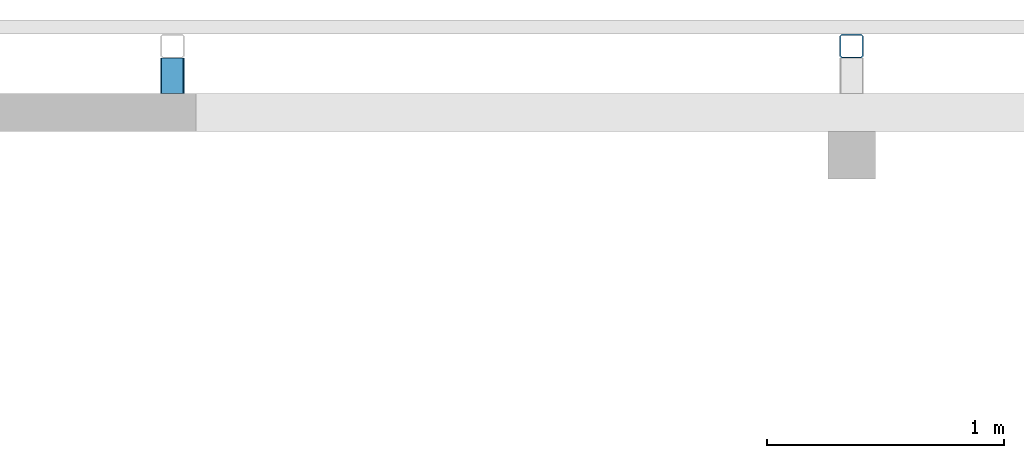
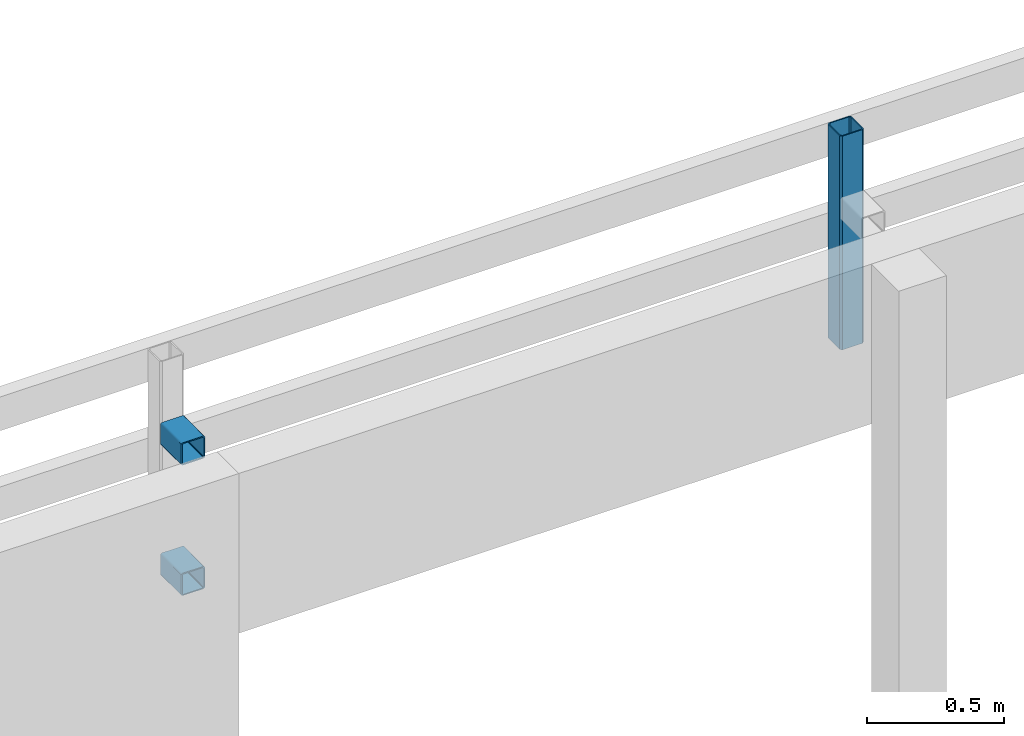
# One storey, part 18 of 42: 3 members.
"""IFC4 building model written with IfcOpenShell, lengths in metres."""

from ifc_helpers import new_model, entity, si_unit, converted_unit, derived_unit, frame, origin, place, context, subcontext, project, spatial, faceted_brep, material, element, save


model = new_model("IFC4")

# Units and contexts
model_context = context("Model", 3, precision=1e-05, world=origin())
plan_context = context("Plan", 2, precision=1e-05, world=origin())
body_context = subcontext(model_context, "Body", "Model", "MODEL_VIEW")
ifc_project = project(units=[si_unit("LENGTHUNIT", "METRE"), si_unit("AREAUNIT", "SQUARE_METRE"), si_unit("VOLUMEUNIT", "CUBIC_METRE"), si_unit("MASSUNIT", "GRAM", prefix="KILO"), converted_unit("PLANEANGLEUNIT", "DEGREE", entity("IfcPlaneAngleMeasure", 0.0174532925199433), si_unit("PLANEANGLEUNIT", "RADIAN"), dimensions=[0, 0, 0, 0, 0, 0, 0]), derived_unit("THERMALTRANSMITTANCEUNIT", [(si_unit("POWERUNIT", "WATT"), 1), (si_unit("THERMODYNAMICTEMPERATUREUNIT", "KELVIN"), -1), (si_unit("LENGTHUNIT", "METRE"), -2)]), derived_unit("VOLUMETRICFLOWRATEUNIT", [(si_unit("LENGTHUNIT", "METRE"), 3), (converted_unit("TIMEUNIT", "hour", entity("IfcTimeMeasure", 3600.0), si_unit("TIMEUNIT", "SECOND"), dimensions=[0, 0, 1, 0, 0, 0, 0]), -1), (si_unit("LENGTHUNIT", "METRE"), -1)])], contexts=[model_context, plan_context])

# Site, building, storey
site_placement = place(None, origin())
site = spatial("IfcSite", under=ifc_project, at=site_placement, Name="Site", CompositionType="ELEMENT")
building_placement = place(site_placement, origin())
building = spatial("IfcBuilding", under=site, at=building_placement, Name="Admin", CompositionType="ELEMENT")
storey_placement = place(building_placement, frame((0.0, 0.0, 6.61)))
storey = spatial("IfcBuildingStorey", under=building, at=storey_placement, Name="02-Etage2", CompositionType="ELEMENT", Elevation=6.61)

# Members
ifc_material_1 = material(Name="S235")
member_1_placement = place(storey_placement, frame((35.3398005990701, 22.4994493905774, 2.28)))
element("IfcMember", 1, at=member_1_placement, inside=storey, material=ifc_material_1, Name="Bandeau R+2", context=body_context, shape_type="Brep", body=[
    faceted_brep([(0.09, 0.005, 0.0), (0.09, 0.005, 0.95), (0.01, 0.005, 0.95), (0.01, 0.005, 0.0), (0.095, 0.01, 0.0), (0.095, 0.01, 0.95), (0.095, 0.09, 0.0), (0.095, 0.09, 0.95), (0.09, 0.095, 0.0), (0.09, 0.095, 0.95), (0.01, 0.095, 0.0), (0.01, 0.095, 0.95), (0.005, 0.09, 0.0), (0.005, 0.09, 0.95), (0.005, 0.01, 0.0), (0.005, 0.01, 0.95), (0.0, 0.0075, 0.0), (0.0, 0.0075, 0.95), (0.0075, 0.0, 0.95), (0.0075, 0.0, 0.0), (0.0, 0.0925, 0.0), (0.0, 0.0925, 0.95), (0.0075, 0.1, 0.0), (0.0075, 0.1, 0.95), (0.0925, 0.1, 0.0), (0.0925, 0.1, 0.95), (0.1, 0.0925, 0.0), (0.1, 0.0925, 0.95), (0.1, 0.0075, 0.0), (0.1, 0.0075, 0.95), (0.0925, 0.0, 0.0), (0.0925, 0.0, 0.95)], [[[0, 1, 2, 3]], [[4, 5, 1, 0]], [[6, 7, 5, 4]], [[8, 9, 7, 6]], [[10, 11, 9, 8]], [[12, 13, 11, 10]], [[14, 15, 13, 12]], [[3, 2, 15, 14]], [[16, 17, 18, 19]], [[20, 21, 17, 16]], [[22, 23, 21, 20]], [[24, 25, 23, 22]], [[26, 27, 25, 24]], [[28, 29, 27, 26]], [[30, 31, 29, 28]], [[19, 18, 31, 30]], [[18, 17, 21, 23, 25, 27, 29, 31], [2, 1, 5, 7, 9, 11, 13, 15]], [[19, 30, 28, 26, 24, 22, 20, 16], [3, 14, 12, 10, 8, 6, 4, 0]]], orient=[[False], [False], [False], [False], [False], [False], [False], [False], [False], [False], [False], [False], [False], [False], [False], [False], [False, False], [False, False]]),
])
ifc_material_2 = material(Name="S235")
member_2_placement = place(storey_placement, frame((32.4798005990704, 22.3494493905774, 2.28)))
element("IfcMember", 2, at=member_2_placement, inside=storey, material=ifc_material_2, Name="Bandeau R+2", context=body_context, shape_type="Brep", body=[
    faceted_brep([(0.00500000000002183, 0.15, 0.09), (0.00500000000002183, 0.15, 0.01), (0.005, 1.81898940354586e-14, 0.01), (0.005, 1.81898940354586e-14, 0.09), (0.00507596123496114, 0.15, 0.0908682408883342), (0.00507596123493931, 1.81898940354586e-14, 0.0908682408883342), (0.00530153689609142, 0.15, 0.0917101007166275), (0.00530153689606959, 1.81898940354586e-14, 0.0917101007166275), (0.00566987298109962, 0.15, 0.0925), (0.00566987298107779, 1.81898940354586e-14, 0.0925), (0.00616977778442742, 0.15, 0.0932139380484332), (0.0061697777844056, 1.81898940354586e-14, 0.0932139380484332), (0.00678606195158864, 0.15, 0.0938302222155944), (0.00678606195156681, 1.81898940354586e-14, 0.0938302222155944), (0.00750000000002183, 0.15, 0.0943301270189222), (0.0075, 1.81898940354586e-14, 0.0943301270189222), (0.00828989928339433, 0.15, 0.0946984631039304), (0.00828989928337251, 1.81898940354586e-14, 0.0946984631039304), (0.00913175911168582, 0.15, 0.0949240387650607), (0.009131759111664, 1.81898940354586e-14, 0.0949240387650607), (0.0100000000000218, 0.15, 0.095), (0.01, 1.81898940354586e-14, 0.095), (0.0900000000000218, 0.149999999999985, 0.095), (0.09, 3.63797880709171e-15, 0.095), (0.0908682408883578, 0.149999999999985, 0.0949240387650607), (0.090868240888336, 3.63797880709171e-15, 0.0949240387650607), (0.0917101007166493, 0.149999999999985, 0.0946984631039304), (0.0917101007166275, 3.63797880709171e-15, 0.0946984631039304), (0.0925000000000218, 0.149999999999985, 0.0943301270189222), (0.0925, 3.63797880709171e-15, 0.0943301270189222), (0.093213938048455, 0.149999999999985, 0.0938302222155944), (0.0932139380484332, 3.63797880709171e-15, 0.0938302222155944), (0.0938302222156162, 0.149999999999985, 0.0932139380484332), (0.0938302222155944, 3.63797880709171e-15, 0.0932139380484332), (0.094330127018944, 0.149999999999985, 0.0925), (0.0943301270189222, 3.63797880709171e-15, 0.0925), (0.0946984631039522, 0.149999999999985, 0.0917101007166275), (0.0946984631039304, 3.63797880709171e-15, 0.0917101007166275), (0.0949240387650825, 0.149999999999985, 0.0908682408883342), (0.0949240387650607, 3.63797880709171e-15, 0.0908682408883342), (0.0950000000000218, 0.149999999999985, 0.09), (0.095, 3.63797880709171e-15, 0.09), (0.0950000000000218, 0.149999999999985, 0.01), (0.095, 3.63797880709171e-15, 0.01), (0.0949240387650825, 0.149999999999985, 0.00913175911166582), (0.0949240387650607, 3.63797880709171e-15, 0.00913175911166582), (0.0946984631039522, 0.149999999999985, 0.00828989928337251), (0.0946984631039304, 3.63797880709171e-15, 0.00828989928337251), (0.094330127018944, 0.149999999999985, 0.0075), (0.0943301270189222, 3.63797880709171e-15, 0.0075), (0.0938302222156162, 0.149999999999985, 0.00678606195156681), (0.0938302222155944, 3.63797880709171e-15, 0.00678606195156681), (0.093213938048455, 0.149999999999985, 0.0061697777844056), (0.0932139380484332, 3.63797880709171e-15, 0.0061697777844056), (0.0925000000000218, 0.149999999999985, 0.00566987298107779), (0.0925, 3.63797880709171e-15, 0.00566987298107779), (0.0917101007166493, 0.149999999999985, 0.00530153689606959), (0.0917101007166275, 3.63797880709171e-15, 0.00530153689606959), (0.0908682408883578, 0.149999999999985, 0.00507596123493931), (0.090868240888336, 3.63797880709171e-15, 0.00507596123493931), (0.0900000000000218, 0.149999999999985, 0.005), (0.09, 3.63797880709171e-15, 0.005), (0.0100000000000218, 0.15, 0.005), (0.01, 1.81898940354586e-14, 0.005), (0.00913175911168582, 0.15, 0.00507596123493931), (0.009131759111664, 1.81898940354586e-14, 0.00507596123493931), (0.00828989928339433, 0.15, 0.00530153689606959), (0.00828989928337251, 1.81898940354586e-14, 0.00530153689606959), (0.00750000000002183, 0.15, 0.00566987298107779), (0.0075, 1.81898940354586e-14, 0.00566987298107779), (0.00678606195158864, 0.15, 0.0061697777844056), (0.00678606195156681, 1.81898940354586e-14, 0.0061697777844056), (0.00616977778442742, 0.15, 0.00678606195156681), (0.0061697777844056, 1.81898940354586e-14, 0.00678606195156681), (0.00566987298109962, 0.15, 0.0075), (0.00566987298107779, 1.81898940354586e-14, 0.0075), (0.00530153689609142, 0.15, 0.00828989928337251), (0.00530153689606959, 1.81898940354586e-14, 0.00828989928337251), (0.00507596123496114, 0.15, 0.00913175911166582), (0.00507596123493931, 1.81898940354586e-14, 0.00913175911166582), (0.0925000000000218, 0.149999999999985, 0.1), (0.093802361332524, 0.149999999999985, 0.099886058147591), (0.0938023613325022, 3.63797880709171e-15, 0.099886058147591), (0.0925, 3.63797880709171e-15, 0.1), (0.00750000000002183, 0.15, 0.1), (0.0075, 1.81898940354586e-14, 0.1), (0.00619763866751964, 0.15, 0.099886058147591), (0.00619763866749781, 1.81898940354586e-14, 0.099886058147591), (0.00493484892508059, 0.15, 0.0995476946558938), (0.00493484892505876, 1.81898940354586e-14, 0.0995476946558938), (0.00375000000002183, 0.15, 0.0989951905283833), (0.00375, 1.81898940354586e-14, 0.0989951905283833), (0.00267909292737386, 0.15, 0.0982453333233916), (0.00267909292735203, 1.81898940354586e-14, 0.0982453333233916), (0.0017546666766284, 0.15, 0.0973209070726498), (0.00175466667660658, 1.81898940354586e-14, 0.0973209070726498), (0.00100480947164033, 0.15, 0.09625), (0.0010048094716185, 1.81898940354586e-14, 0.09625), (0.000452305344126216, 0.15, 0.0950651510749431), (0.000452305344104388, 1.81898940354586e-14, 0.0950651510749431), (0.000113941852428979, 0.15, 0.0938023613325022), (0.000113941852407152, 1.81898940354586e-14, 0.0938023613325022), (2.18278728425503e-14, 0.15, 0.0925), (0.0, 1.81898940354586e-14, 0.0925), (0.000113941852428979, 0.15, 0.00619763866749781), (2.18278728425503e-14, 0.15, 0.0075), (0.0, 1.81898940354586e-14, 0.0075), (0.000113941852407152, 1.81898940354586e-14, 0.00619763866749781), (0.000452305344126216, 0.15, 0.00493484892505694), (0.000452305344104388, 1.81898940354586e-14, 0.00493484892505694), (0.00100480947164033, 0.15, 0.00375), (0.0010048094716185, 1.81898940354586e-14, 0.00375), (0.0017546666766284, 0.15, 0.00267909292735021), (0.00175466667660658, 1.81898940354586e-14, 0.00267909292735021), (0.00267909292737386, 0.15, 0.00175466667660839), (0.00267909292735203, 1.81898940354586e-14, 0.00175466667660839), (0.00375000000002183, 0.15, 0.00100480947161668), (0.00375, 1.81898940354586e-14, 0.00100480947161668), (0.00493484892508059, 0.15, 0.000452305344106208), (0.00493484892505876, 1.81898940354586e-14, 0.000452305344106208), (0.00619763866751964, 0.15, 0.000113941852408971), (0.00619763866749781, 1.81898940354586e-14, 0.000113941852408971), (0.00750000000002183, 0.15, 0.0), (0.0075, 1.81898940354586e-14, 0.0), (0.0925000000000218, 0.149999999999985, 0.0), (0.0925, 3.63797880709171e-15, 0.0), (0.093802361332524, 0.149999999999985, 0.000113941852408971), (0.0938023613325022, 3.63797880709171e-15, 0.000113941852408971), (0.0950651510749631, 0.149999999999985, 0.000452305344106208), (0.0950651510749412, 3.63797880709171e-15, 0.000452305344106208), (0.0962500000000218, 0.149999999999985, 0.00100480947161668), (0.09625, 3.63797880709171e-15, 0.00100480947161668), (0.0973209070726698, 0.149999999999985, 0.00175466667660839), (0.097320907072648, 3.63797880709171e-15, 0.00175466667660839), (0.0982453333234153, 0.149999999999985, 0.00267909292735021), (0.0982453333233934, 3.63797880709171e-15, 0.00267909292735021), (0.0989951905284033, 0.149999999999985, 0.00375), (0.0989951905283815, 3.63797880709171e-15, 0.00375), (0.0995476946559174, 0.149999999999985, 0.00493484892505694), (0.0995476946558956, 3.63797880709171e-15, 0.00493484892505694), (0.0998860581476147, 0.149999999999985, 0.00619763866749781), (0.0998860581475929, 3.63797880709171e-15, 0.00619763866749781), (0.100000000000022, 0.15, 0.0075), (0.1, 3.63797880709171e-15, 0.0075), (0.0998860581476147, 0.149999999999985, 0.0938023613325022), (0.100000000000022, 0.15, 0.0925), (0.1, 3.63797880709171e-15, 0.0925), (0.0998860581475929, 3.63797880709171e-15, 0.0938023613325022), (0.0995476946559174, 0.149999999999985, 0.0950651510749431), (0.0995476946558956, 3.63797880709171e-15, 0.0950651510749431), (0.0989951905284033, 0.149999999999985, 0.09625), (0.0989951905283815, 3.63797880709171e-15, 0.09625), (0.0982453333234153, 0.149999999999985, 0.0973209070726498), (0.0982453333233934, 3.63797880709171e-15, 0.0973209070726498), (0.0973209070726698, 0.149999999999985, 0.0982453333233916), (0.097320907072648, 3.63797880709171e-15, 0.0982453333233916), (0.0962500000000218, 0.149999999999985, 0.0989951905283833), (0.09625, 3.63797880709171e-15, 0.0989951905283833), (0.0950651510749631, 0.149999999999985, 0.0995476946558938), (0.0950651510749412, 3.63797880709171e-15, 0.0995476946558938)], [[[0, 1, 2, 3]], [[4, 0, 3, 5]], [[6, 4, 5, 7]], [[8, 6, 7, 9]], [[10, 8, 9, 11]], [[12, 10, 11, 13]], [[14, 12, 13, 15]], [[16, 14, 15, 17]], [[18, 16, 17, 19]], [[20, 18, 19, 21]], [[22, 20, 21, 23]], [[24, 22, 23, 25]], [[26, 24, 25, 27]], [[28, 26, 27, 29]], [[30, 28, 29, 31]], [[32, 30, 31, 33]], [[34, 32, 33, 35]], [[36, 34, 35, 37]], [[38, 36, 37, 39]], [[40, 38, 39, 41]], [[42, 40, 41, 43]], [[44, 42, 43, 45]], [[46, 44, 45, 47]], [[48, 46, 47, 49]], [[50, 48, 49, 51]], [[52, 50, 51, 53]], [[54, 52, 53, 55]], [[56, 54, 55, 57]], [[58, 56, 57, 59]], [[60, 58, 59, 61]], [[62, 60, 61, 63]], [[64, 62, 63, 65]], [[66, 64, 65, 67]], [[68, 66, 67, 69]], [[70, 68, 69, 71]], [[72, 70, 71, 73]], [[74, 72, 73, 75]], [[76, 74, 75, 77]], [[78, 76, 77, 79]], [[1, 78, 79, 2]], [[80, 81, 82, 83]], [[84, 80, 83, 85]], [[86, 84, 85, 87]], [[88, 86, 87, 89]], [[90, 88, 89, 91]], [[92, 90, 91, 93]], [[94, 92, 93, 95]], [[96, 94, 95, 97]], [[98, 96, 97, 99]], [[100, 98, 99, 101]], [[102, 100, 101, 103]], [[104, 105, 106, 107]], [[108, 104, 107, 109]], [[110, 108, 109, 111]], [[112, 110, 111, 113]], [[114, 112, 113, 115]], [[116, 114, 115, 117]], [[118, 116, 117, 119]], [[120, 118, 119, 121]], [[122, 120, 121, 123]], [[124, 122, 123, 125]], [[126, 124, 125, 127]], [[128, 126, 127, 129]], [[130, 128, 129, 131]], [[132, 130, 131, 133]], [[134, 132, 133, 135]], [[136, 134, 135, 137]], [[138, 136, 137, 139]], [[140, 138, 139, 141]], [[142, 140, 141, 143]], [[144, 145, 146, 147]], [[148, 144, 147, 149]], [[150, 148, 149, 151]], [[152, 150, 151, 153]], [[154, 152, 153, 155]], [[156, 154, 155, 157]], [[158, 156, 157, 159]], [[81, 158, 159, 82]], [[146, 143, 141, 139, 137, 135, 133, 131, 129, 127, 125, 123, 121, 119, 117, 115, 113, 111, 109, 107, 106, 103, 101, 99, 97, 95, 93, 91, 89, 87, 85, 83, 82, 159, 157, 155, 153, 151, 149, 147], [2, 79, 77, 75, 73, 71, 69, 67, 65, 63, 61, 59, 57, 55, 53, 51, 49, 47, 45, 43, 41, 39, 37, 35, 33, 31, 29, 27, 25, 23, 21, 19, 17, 15, 13, 11, 9, 7, 5, 3]], [[103, 106, 105, 102]], [[102, 105, 104, 108, 110, 112, 114, 116, 118, 120, 122, 124, 126, 128, 130, 132, 134, 136, 138, 140, 142, 145, 144, 148, 150, 152, 154, 156, 158, 81, 80, 84, 86, 88, 90, 92, 94, 96, 98, 100], [1, 0, 4, 6, 8, 10, 12, 14, 16, 18, 20, 22, 24, 26, 28, 30, 32, 34, 36, 38, 40, 42, 44, 46, 48, 50, 52, 54, 56, 58, 60, 62, 64, 66, 68, 70, 72, 74, 76, 78]], [[145, 142, 143, 146]]], orient=[[False], [False], [False], [False], [False], [False], [False], [False], [False], [False], [False], [False], [False], [False], [False], [False], [False], [False], [False], [False], [False], [False], [False], [False], [False], [False], [False], [False], [False], [False], [False], [False], [False], [False], [False], [False], [False], [False], [False], [False], [False], [False], [False], [False], [False], [False], [False], [False], [False], [False], [False], [False], [False], [False], [False], [False], [False], [False], [False], [False], [False], [False], [False], [False], [False], [False], [False], [False], [False], [False], [False], [False], [False], [False], [False], [False], [False], [False], [False, False], [False], [False, False], [False]]),
])
ifc_material_3 = material(Name="S235")
member_3_placement = place(storey_placement, frame((32.4798005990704, 22.3494493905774, 2.86)))
element("IfcMember", 3, at=member_3_placement, inside=storey, material=ifc_material_3, Name="Bandeau R+2", context=body_context, shape_type="Brep", body=[
    faceted_brep([(0.00500000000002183, 0.149999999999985, 0.09), (0.00500000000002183, 0.149999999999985, 0.01), (0.005, 1.09139364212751e-14, 0.01), (0.005, 1.09139364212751e-14, 0.09), (0.00507596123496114, 0.149999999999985, 0.0908682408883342), (0.00507596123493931, 1.09139364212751e-14, 0.0908682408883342), (0.00530153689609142, 0.149999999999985, 0.0917101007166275), (0.00530153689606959, 1.09139364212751e-14, 0.0917101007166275), (0.00566987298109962, 0.149999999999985, 0.0925), (0.00566987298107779, 1.09139364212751e-14, 0.0925), (0.00616977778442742, 0.149999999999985, 0.0932139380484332), (0.0061697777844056, 1.09139364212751e-14, 0.0932139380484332), (0.00678606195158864, 0.149999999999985, 0.0938302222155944), (0.00678606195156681, 1.09139364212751e-14, 0.0938302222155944), (0.00750000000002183, 0.149999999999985, 0.0943301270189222), (0.0075, 1.09139364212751e-14, 0.0943301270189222), (0.00828989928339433, 0.149999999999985, 0.0946984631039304), (0.00828989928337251, 1.09139364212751e-14, 0.0946984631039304), (0.00913175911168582, 0.149999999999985, 0.0949240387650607), (0.009131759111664, 1.09139364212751e-14, 0.0949240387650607), (0.0100000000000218, 0.149999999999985, 0.095), (0.01, 1.09139364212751e-14, 0.095), (0.0900000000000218, 0.149999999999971, 0.095), (0.09, -3.63797880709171e-15, 0.095), (0.0908682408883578, 0.149999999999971, 0.0949240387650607), (0.090868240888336, -3.63797880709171e-15, 0.0949240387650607), (0.0917101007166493, 0.149999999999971, 0.0946984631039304), (0.0917101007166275, -3.63797880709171e-15, 0.0946984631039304), (0.0925000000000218, 0.149999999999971, 0.0943301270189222), (0.0925, -3.63797880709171e-15, 0.0943301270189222), (0.093213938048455, 0.149999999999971, 0.0938302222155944), (0.0932139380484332, -3.63797880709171e-15, 0.0938302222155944), (0.0938302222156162, 0.149999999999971, 0.0932139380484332), (0.0938302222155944, -3.63797880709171e-15, 0.0932139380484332), (0.094330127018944, 0.149999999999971, 0.0925), (0.0943301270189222, -3.63797880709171e-15, 0.0925), (0.0946984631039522, 0.149999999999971, 0.0917101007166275), (0.0946984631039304, -3.63797880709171e-15, 0.0917101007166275), (0.0949240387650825, 0.149999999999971, 0.0908682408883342), (0.0949240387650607, -3.63797880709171e-15, 0.0908682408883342), (0.0950000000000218, 0.149999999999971, 0.09), (0.095, -3.63797880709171e-15, 0.09), (0.0950000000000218, 0.149999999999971, 0.01), (0.095, -3.63797880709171e-15, 0.01), (0.0949240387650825, 0.149999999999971, 0.00913175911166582), (0.0949240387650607, -3.63797880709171e-15, 0.00913175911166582), (0.0946984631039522, 0.149999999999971, 0.00828989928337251), (0.0946984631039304, -3.63797880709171e-15, 0.00828989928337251), (0.094330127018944, 0.149999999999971, 0.0075), (0.0943301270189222, -3.63797880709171e-15, 0.0075), (0.0938302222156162, 0.149999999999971, 0.00678606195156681), (0.0938302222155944, -3.63797880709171e-15, 0.00678606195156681), (0.093213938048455, 0.149999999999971, 0.0061697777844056), (0.0932139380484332, -3.63797880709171e-15, 0.0061697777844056), (0.0925000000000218, 0.149999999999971, 0.00566987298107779), (0.0925, -3.63797880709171e-15, 0.00566987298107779), (0.0917101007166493, 0.149999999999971, 0.00530153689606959), (0.0917101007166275, -3.63797880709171e-15, 0.00530153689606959), (0.0908682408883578, 0.149999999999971, 0.00507596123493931), (0.090868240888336, -3.63797880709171e-15, 0.00507596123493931), (0.0900000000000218, 0.149999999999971, 0.005), (0.09, -3.63797880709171e-15, 0.005), (0.0100000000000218, 0.149999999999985, 0.005), (0.01, 1.09139364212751e-14, 0.005), (0.00913175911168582, 0.149999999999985, 0.00507596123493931), (0.009131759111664, 1.09139364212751e-14, 0.00507596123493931), (0.00828989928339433, 0.149999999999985, 0.00530153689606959), (0.00828989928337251, 1.09139364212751e-14, 0.00530153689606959), (0.00750000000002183, 0.149999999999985, 0.00566987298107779), (0.0075, 1.09139364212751e-14, 0.00566987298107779), (0.00678606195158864, 0.149999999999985, 0.0061697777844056), (0.00678606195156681, 1.09139364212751e-14, 0.0061697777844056), (0.00616977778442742, 0.149999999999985, 0.00678606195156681), (0.0061697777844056, 1.09139364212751e-14, 0.00678606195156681), (0.00566987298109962, 0.149999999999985, 0.0075), (0.00566987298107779, 1.09139364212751e-14, 0.0075), (0.00530153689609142, 0.149999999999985, 0.00828989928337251), (0.00530153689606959, 1.09139364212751e-14, 0.00828989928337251), (0.00507596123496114, 0.149999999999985, 0.00913175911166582), (0.00507596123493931, 1.09139364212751e-14, 0.00913175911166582), (0.0925000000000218, 0.149999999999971, 0.1), (0.093802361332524, 0.149999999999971, 0.099886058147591), (0.0938023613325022, -3.63797880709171e-15, 0.099886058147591), (0.0925, -3.63797880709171e-15, 0.1), (0.00750000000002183, 0.149999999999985, 0.1), (0.0075, 1.09139364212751e-14, 0.1), (0.00619763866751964, 0.149999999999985, 0.099886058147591), (0.00619763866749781, 1.09139364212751e-14, 0.099886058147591), (0.00493484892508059, 0.149999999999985, 0.0995476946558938), (0.00493484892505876, 1.09139364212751e-14, 0.0995476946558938), (0.00375000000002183, 0.149999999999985, 0.0989951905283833), (0.00375, 1.09139364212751e-14, 0.0989951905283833), (0.00267909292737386, 0.149999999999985, 0.0982453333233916), (0.00267909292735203, 1.09139364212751e-14, 0.0982453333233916), (0.0017546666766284, 0.149999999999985, 0.0973209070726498), (0.00175466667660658, 1.09139364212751e-14, 0.0973209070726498), (0.00100480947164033, 0.149999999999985, 0.09625), (0.0010048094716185, 1.09139364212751e-14, 0.09625), (0.000452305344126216, 0.149999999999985, 0.0950651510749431), (0.000452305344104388, 1.09139364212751e-14, 0.0950651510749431), (0.000113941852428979, 0.149999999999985, 0.0938023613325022), (0.000113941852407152, 1.09139364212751e-14, 0.0938023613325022), (2.18278728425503e-14, 0.149999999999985, 0.0925), (0.0, 1.09139364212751e-14, 0.0925), (0.000113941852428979, 0.149999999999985, 0.00619763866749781), (2.18278728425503e-14, 0.149999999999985, 0.0075), (0.0, 1.09139364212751e-14, 0.0075), (0.000113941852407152, 1.09139364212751e-14, 0.00619763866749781), (0.000452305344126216, 0.149999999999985, 0.00493484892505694), (0.000452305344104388, 1.09139364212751e-14, 0.00493484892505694), (0.00100480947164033, 0.149999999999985, 0.00375), (0.0010048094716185, 1.09139364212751e-14, 0.00375), (0.0017546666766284, 0.149999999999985, 0.00267909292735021), (0.00175466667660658, 1.09139364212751e-14, 0.00267909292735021), (0.00267909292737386, 0.149999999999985, 0.00175466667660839), (0.00267909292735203, 1.09139364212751e-14, 0.00175466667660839), (0.00375000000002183, 0.149999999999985, 0.00100480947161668), (0.00375, 1.09139364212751e-14, 0.00100480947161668), (0.00493484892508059, 0.149999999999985, 0.000452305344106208), (0.00493484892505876, 1.09139364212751e-14, 0.000452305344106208), (0.00619763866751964, 0.149999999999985, 0.000113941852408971), (0.00619763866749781, 1.09139364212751e-14, 0.000113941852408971), (0.00750000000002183, 0.149999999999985, 0.0), (0.0075, 1.09139364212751e-14, 0.0), (0.0925000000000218, 0.149999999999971, 0.0), (0.0925, -3.63797880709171e-15, 0.0), (0.093802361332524, 0.149999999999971, 0.000113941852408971), (0.0938023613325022, -3.63797880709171e-15, 0.000113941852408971), (0.0950651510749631, 0.149999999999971, 0.000452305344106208), (0.0950651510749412, -3.63797880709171e-15, 0.000452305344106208), (0.0962500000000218, 0.149999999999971, 0.00100480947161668), (0.09625, -3.63797880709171e-15, 0.00100480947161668), (0.0973209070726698, 0.149999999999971, 0.00175466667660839), (0.097320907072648, -3.63797880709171e-15, 0.00175466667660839), (0.0982453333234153, 0.149999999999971, 0.00267909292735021), (0.0982453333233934, -3.63797880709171e-15, 0.00267909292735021), (0.0989951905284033, 0.149999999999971, 0.00375), (0.0989951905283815, -3.63797880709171e-15, 0.00375), (0.0995476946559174, 0.149999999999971, 0.00493484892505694), (0.0995476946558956, -3.63797880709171e-15, 0.00493484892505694), (0.0998860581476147, 0.149999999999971, 0.00619763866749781), (0.0998860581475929, -3.63797880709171e-15, 0.00619763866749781), (0.100000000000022, 0.149999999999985, 0.0075), (0.1, -3.63797880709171e-15, 0.0075), (0.0998860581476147, 0.149999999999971, 0.0938023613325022), (0.100000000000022, 0.149999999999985, 0.0925), (0.1, -3.63797880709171e-15, 0.0925), (0.0998860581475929, -3.63797880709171e-15, 0.0938023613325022), (0.0995476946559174, 0.149999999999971, 0.0950651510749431), (0.0995476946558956, -3.63797880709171e-15, 0.0950651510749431), (0.0989951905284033, 0.149999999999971, 0.09625), (0.0989951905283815, -3.63797880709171e-15, 0.09625), (0.0982453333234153, 0.149999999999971, 0.0973209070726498), (0.0982453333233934, -3.63797880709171e-15, 0.0973209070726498), (0.0973209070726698, 0.149999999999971, 0.0982453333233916), (0.097320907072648, -3.63797880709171e-15, 0.0982453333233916), (0.0962500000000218, 0.149999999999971, 0.0989951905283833), (0.09625, -3.63797880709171e-15, 0.0989951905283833), (0.0950651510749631, 0.149999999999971, 0.0995476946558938), (0.0950651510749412, -3.63797880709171e-15, 0.0995476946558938)], [[[0, 1, 2, 3]], [[4, 0, 3, 5]], [[6, 4, 5, 7]], [[8, 6, 7, 9]], [[10, 8, 9, 11]], [[12, 10, 11, 13]], [[14, 12, 13, 15]], [[16, 14, 15, 17]], [[18, 16, 17, 19]], [[20, 18, 19, 21]], [[22, 20, 21, 23]], [[24, 22, 23, 25]], [[26, 24, 25, 27]], [[28, 26, 27, 29]], [[30, 28, 29, 31]], [[32, 30, 31, 33]], [[34, 32, 33, 35]], [[36, 34, 35, 37]], [[38, 36, 37, 39]], [[40, 38, 39, 41]], [[42, 40, 41, 43]], [[44, 42, 43, 45]], [[46, 44, 45, 47]], [[48, 46, 47, 49]], [[50, 48, 49, 51]], [[52, 50, 51, 53]], [[54, 52, 53, 55]], [[56, 54, 55, 57]], [[58, 56, 57, 59]], [[60, 58, 59, 61]], [[62, 60, 61, 63]], [[64, 62, 63, 65]], [[66, 64, 65, 67]], [[68, 66, 67, 69]], [[70, 68, 69, 71]], [[72, 70, 71, 73]], [[74, 72, 73, 75]], [[76, 74, 75, 77]], [[78, 76, 77, 79]], [[1, 78, 79, 2]], [[80, 81, 82, 83]], [[84, 80, 83, 85]], [[86, 84, 85, 87]], [[88, 86, 87, 89]], [[90, 88, 89, 91]], [[92, 90, 91, 93]], [[94, 92, 93, 95]], [[96, 94, 95, 97]], [[98, 96, 97, 99]], [[100, 98, 99, 101]], [[102, 100, 101, 103]], [[104, 105, 106, 107]], [[108, 104, 107, 109]], [[110, 108, 109, 111]], [[112, 110, 111, 113]], [[114, 112, 113, 115]], [[116, 114, 115, 117]], [[118, 116, 117, 119]], [[120, 118, 119, 121]], [[122, 120, 121, 123]], [[124, 122, 123, 125]], [[126, 124, 125, 127]], [[128, 126, 127, 129]], [[130, 128, 129, 131]], [[132, 130, 131, 133]], [[134, 132, 133, 135]], [[136, 134, 135, 137]], [[138, 136, 137, 139]], [[140, 138, 139, 141]], [[142, 140, 141, 143]], [[144, 145, 146, 147]], [[148, 144, 147, 149]], [[150, 148, 149, 151]], [[152, 150, 151, 153]], [[154, 152, 153, 155]], [[156, 154, 155, 157]], [[158, 156, 157, 159]], [[81, 158, 159, 82]], [[146, 143, 141, 139, 137, 135, 133, 131, 129, 127, 125, 123, 121, 119, 117, 115, 113, 111, 109, 107, 106, 103, 101, 99, 97, 95, 93, 91, 89, 87, 85, 83, 82, 159, 157, 155, 153, 151, 149, 147], [2, 79, 77, 75, 73, 71, 69, 67, 65, 63, 61, 59, 57, 55, 53, 51, 49, 47, 45, 43, 41, 39, 37, 35, 33, 31, 29, 27, 25, 23, 21, 19, 17, 15, 13, 11, 9, 7, 5, 3]], [[103, 106, 105, 102]], [[102, 105, 104, 108, 110, 112, 114, 116, 118, 120, 122, 124, 126, 128, 130, 132, 134, 136, 138, 140, 142, 145, 144, 148, 150, 152, 154, 156, 158, 81, 80, 84, 86, 88, 90, 92, 94, 96, 98, 100], [1, 0, 4, 6, 8, 10, 12, 14, 16, 18, 20, 22, 24, 26, 28, 30, 32, 34, 36, 38, 40, 42, 44, 46, 48, 50, 52, 54, 56, 58, 60, 62, 64, 66, 68, 70, 72, 74, 76, 78]], [[145, 142, 143, 146]]], orient=[[False], [False], [False], [False], [False], [False], [False], [False], [False], [False], [False], [False], [False], [False], [False], [False], [False], [False], [False], [False], [False], [False], [False], [False], [False], [False], [False], [False], [False], [False], [False], [False], [False], [False], [False], [False], [False], [False], [False], [False], [False], [False], [False], [False], [False], [False], [False], [False], [False], [False], [False], [False], [False], [False], [False], [False], [False], [False], [False], [False], [False], [False], [False], [False], [False], [False], [False], [False], [False], [False], [False], [False], [False], [False], [False], [False], [False], [False], [False, False], [False], [False, False], [False]]),
])

save(model, "model.ifc")
